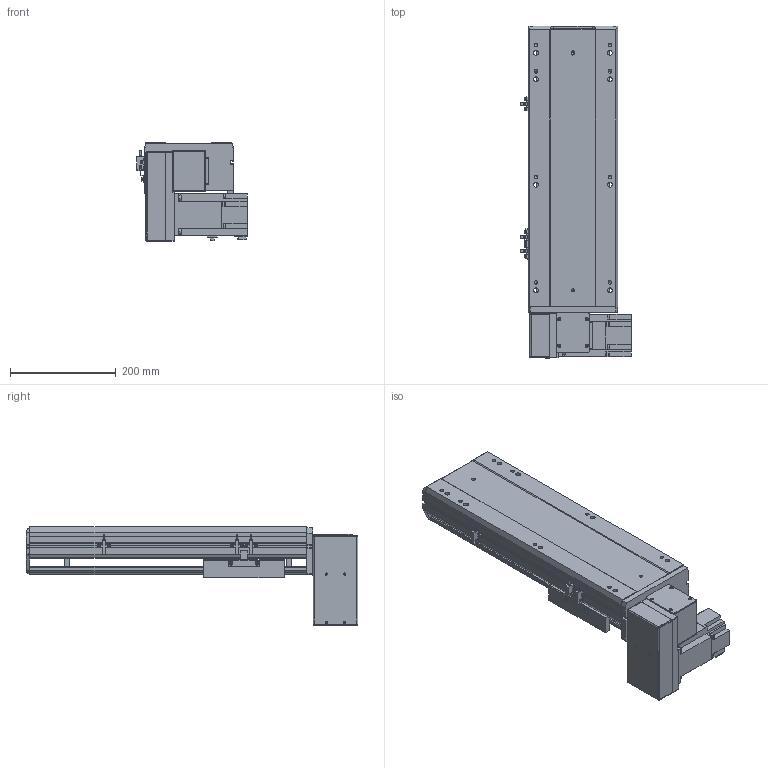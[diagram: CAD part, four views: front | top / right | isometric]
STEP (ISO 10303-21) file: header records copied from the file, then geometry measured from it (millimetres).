
FILE_DESCRIPTION (( 'STEP AP203' ), '1' );
FILE_NAME ('BTB17-L50-250-RU-T75-C4.STEP', '2022-07-26T06:35:00', ( 'CXY' ), ( 'BT' ), 'SwSTEP 2.0', 'SolidWorks 2016', '' );
FILE_SCHEMA (( 'CONFIG_CONTROL_DESIGN' ));
Length unit declared in the file: millimetre
Products named in the file (10): BTB17-L-HZ; BTB17-L-24; BTB17-L-菁釱_XD; T75; BTB17-L50-250-RU-T75-C4; BTB17-L-04; BTB17-L-02; BTB17-L-23; BTB17-L-06; BTB17-L-01
Assembly tree (12 placements, depth 2):
  BTB17-L50-250-RU-T75-C4
    BTB17-L-菁釱_XD
    BTB17-L-01
    BTB17-L-04  x3
    BTB17-L-06
    BTB17-L-23  x2
    BTB17-L-24
    BTB17-L-HZ
    BTB17-L-02
    T75
Bounding box: 209 x 629 x 186.5 mm (x, y, z)
Volume: 6130730.8 mm3; surface area: 930170.8 mm2
Topology: 22 solids, 22 shells, 1534 faces, 4045 edges, 2564 vertices
Faces by surface type: plane 862, cylinder 504, cone 132, bspline 20, torus 16
Entity records: 39077 total; most frequent: CARTESIAN_POINT 7364, DIRECTION 6471, ORIENTED_EDGE 6274, EDGE_CURVE 3137, AXIS2_PLACEMENT_3D 2195, VECTOR 2081, LINE 2081, VERTEX_POINT 2032
